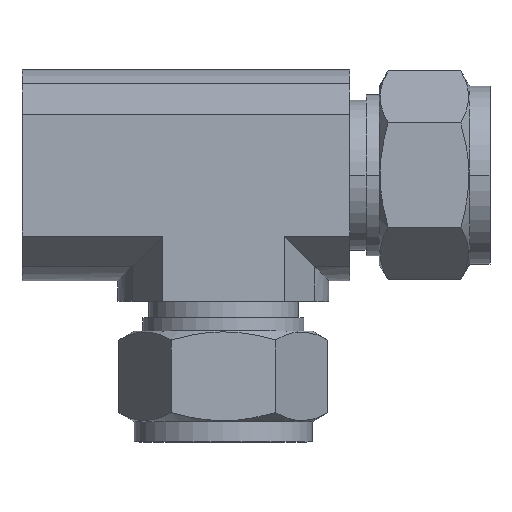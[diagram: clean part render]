
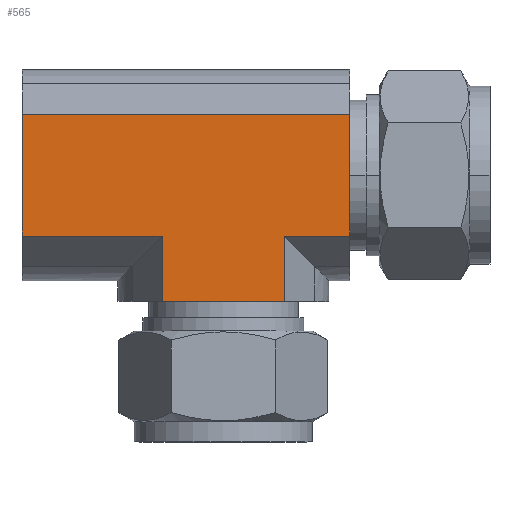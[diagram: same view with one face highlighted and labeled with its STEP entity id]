
A CAD part, top view. The second image highlights one B-rep face of the part: STEP entity #565.
In plain terms, the highlighted planar face has unit normal (0, 0, 1).
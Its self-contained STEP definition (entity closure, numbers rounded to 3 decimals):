
#64 = VERTEX_POINT ( 'NONE', #1021 ) ;
#120 = EDGE_CURVE ( 'NONE', #64, #121, #1081, .T. ) ;
#121 = VERTEX_POINT ( 'NONE', #957 ) ;
#389 = VERTEX_POINT ( 'NONE', #1691 ) ;
#392 = EDGE_CURVE ( 'NONE', #389, #393, #1689, .T. ) ;
#393 = VERTEX_POINT ( 'NONE', #1685 ) ;
#399 = VERTEX_POINT ( 'NONE', #1672 ) ;
#470 = VERTEX_POINT ( 'NONE', #1731 ) ;
#477 = EDGE_CURVE ( 'NONE', #399, #478, #1714, .T. ) ;
#478 = VERTEX_POINT ( 'NONE', #1710 ) ;
#532 = EDGE_CURVE ( 'NONE', #64, #470, #2105, .T. ) ;
#533 = ORIENTED_EDGE ( 'NONE', *, *, #608, .F. ) ;
#534 = ORIENTED_EDGE ( 'NONE', *, *, #477, .F. ) ;
#535 = ORIENTED_EDGE ( 'NONE', *, *, #563, .T. ) ;
#536 = ORIENTED_EDGE ( 'NONE', *, *, #537, .F. ) ;
#537 = EDGE_CURVE ( 'NONE', #393, #561, #2101, .T. ) ;
#561 = VERTEX_POINT ( 'NONE', #2110 ) ;
#563 = EDGE_CURVE ( 'NONE', #399, #561, #2109, .T. ) ;
#565 = ADVANCED_FACE ( 'NONE', ( #1972 ), #1971, .F. ) ;
#566 = EDGE_LOOP ( 'NONE', ( #567, #568, #570, #571, #533, #534, #535, #536 ) ) ;
#567 = ORIENTED_EDGE ( 'NONE', *, *, #392, .F. ) ;
#568 = ORIENTED_EDGE ( 'NONE', *, *, #569, .F. ) ;
#569 = EDGE_CURVE ( 'NONE', #121, #389, #1966, .T. ) ;
#570 = ORIENTED_EDGE ( 'NONE', *, *, #120, .F. ) ;
#571 = ORIENTED_EDGE ( 'NONE', *, *, #532, .T. ) ;
#608 = EDGE_CURVE ( 'NONE', #478, #470, #1952, .T. ) ;
#957 = CARTESIAN_POINT ( 'NONE',  ( -9.613, -19.92, 16.65 ) ) ;
#958 = DIRECTION ( 'NONE',  ( -1., 0., 0. ) ) ;
#964 = VECTOR ( 'NONE', #958, 1000. ) ;
#965 = CARTESIAN_POINT ( 'NONE',  ( 9.613, -19.92, 16.65 ) ) ;
#1021 = CARTESIAN_POINT ( 'NONE',  ( 9.613, -19.92, 16.65 ) ) ;
#1081 = LINE ( 'NONE', #965, #964 ) ;
#1672 = CARTESIAN_POINT ( 'NONE',  ( 19.92, 9.613, 16.65 ) ) ;
#1685 = CARTESIAN_POINT ( 'NONE',  ( -31.8, -9.613, 16.65 ) ) ;
#1686 = DIRECTION ( 'NONE',  ( -1., 0., 0. ) ) ;
#1687 = VECTOR ( 'NONE', #1686, 1000. ) ;
#1688 = CARTESIAN_POINT ( 'NONE',  ( 19.92, -9.613, 16.65 ) ) ;
#1689 = LINE ( 'NONE', #1688, #1687 ) ;
#1691 = CARTESIAN_POINT ( 'NONE',  ( -9.613, -9.613, 16.65 ) ) ;
#1710 = CARTESIAN_POINT ( 'NONE',  ( 19.92, -9.613, 16.65 ) ) ;
#1711 = DIRECTION ( 'NONE',  ( 0., -1., 0. ) ) ;
#1712 = VECTOR ( 'NONE', #1711, 1000. ) ;
#1713 = CARTESIAN_POINT ( 'NONE',  ( 19.92, 9.613, 16.65 ) ) ;
#1714 = LINE ( 'NONE', #1713, #1712 ) ;
#1731 = CARTESIAN_POINT ( 'NONE',  ( 9.613, -9.613, 16.65 ) ) ;
#1949 = DIRECTION ( 'NONE',  ( -1., 0., 0. ) ) ;
#1950 = VECTOR ( 'NONE', #1949, 1000. ) ;
#1951 = CARTESIAN_POINT ( 'NONE',  ( 19.92, -9.613, 16.65 ) ) ;
#1952 = LINE ( 'NONE', #1951, #1950 ) ;
#1965 = CARTESIAN_POINT ( 'NONE',  ( -9.613, -19.92, 16.65 ) ) ;
#1966 = LINE ( 'NONE', #1965, #2022 ) ;
#1967 = DIRECTION ( 'NONE',  ( 0., 1., 0. ) ) ;
#1968 = DIRECTION ( 'NONE',  ( 0., 0., -1. ) ) ;
#1969 = AXIS2_PLACEMENT_3D ( 'NONE', #1970, #1968, #1967 ) ;
#1970 = CARTESIAN_POINT ( 'NONE',  ( 19.92, 9.613, 16.65 ) ) ;
#1971 = PLANE ( 'NONE',  #1969 ) ;
#1972 = FACE_OUTER_BOUND ( 'NONE', #566, .T. ) ;
#2021 = DIRECTION ( 'NONE',  ( 0., 1., 0. ) ) ;
#2022 = VECTOR ( 'NONE', #2021, 1000. ) ;
#2098 = DIRECTION ( 'NONE',  ( 0., 1., 0. ) ) ;
#2099 = VECTOR ( 'NONE', #2098, 1000. ) ;
#2100 = CARTESIAN_POINT ( 'NONE',  ( -31.8, -9.613, 16.65 ) ) ;
#2101 = LINE ( 'NONE', #2100, #2099 ) ;
#2102 = DIRECTION ( 'NONE',  ( 0., 1., 0. ) ) ;
#2103 = VECTOR ( 'NONE', #2102, 1000. ) ;
#2104 = CARTESIAN_POINT ( 'NONE',  ( 9.613, -19.92, 16.65 ) ) ;
#2105 = LINE ( 'NONE', #2104, #2103 ) ;
#2106 = DIRECTION ( 'NONE',  ( -1., 0., 0. ) ) ;
#2107 = VECTOR ( 'NONE', #2106, 1000. ) ;
#2108 = CARTESIAN_POINT ( 'NONE',  ( 19.92, 9.613, 16.65 ) ) ;
#2109 = LINE ( 'NONE', #2108, #2107 ) ;
#2110 = CARTESIAN_POINT ( 'NONE',  ( -31.8, 9.613, 16.65 ) ) ;
